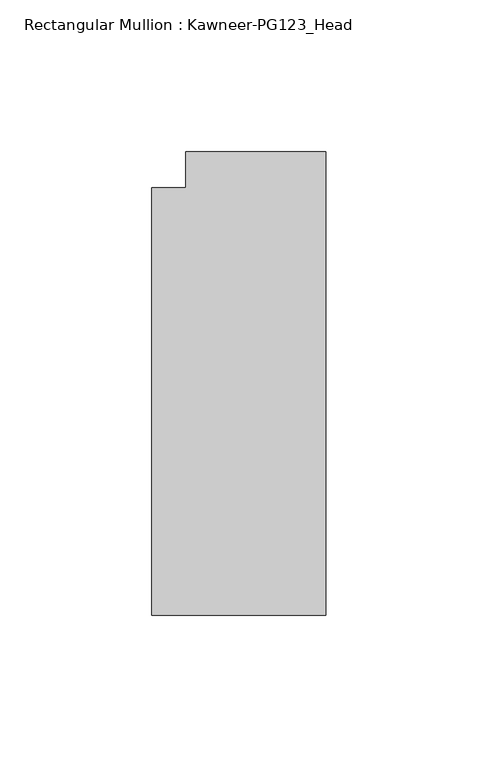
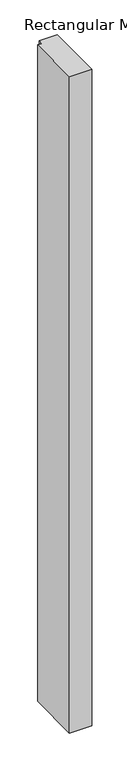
"""IFC4 building model written with IfcOpenShell, lengths in millimetres: member geometry, Rectangular Mullion : Kawneer-PG123_Head."""

from ifc_helpers import new_model, si_unit, frame, origin, place, context, project, spatial, polyline, outline, extrude, source, transform, mapped, element, save


def rectangular_mullion_kawneer_pg123_head_214c1f87(model_context):
    return source(origin(), model_context, "Body", "SweptSolid", [
        extrude(outline(polyline([(0.0, 76.2), (0.0, -76.2), (-57.15, -76.2), (-57.15, 64.4779044), (-46.0319821, 64.4779044), (-46.0319821, 76.2), (0.0, 76.2)])), frame((0.0, 0.0, -1770.45), z_axis=(0.0, 0.0, 1.0), x_axis=(1.0, 0.0, 0.0)), (0.0, 0.0, 1.0), 1770.45),
    ])


if __name__ == "__main__":
    model = new_model("IFC4")
    model_context = context("Model", 3, world=origin())
    ifc_project = project(units=[si_unit("LENGTHUNIT", "METRE", prefix="MILLI")], contexts=[model_context])
    site = spatial("IfcSite", under=ifc_project)
    building = spatial("IfcBuilding", under=site)
    placement = place(None, origin())
    rectangular_mullion_kawneer_pg123_head_shape = rectangular_mullion_kawneer_pg123_head_214c1f87(model_context)
    element("IfcMember", 1, ObjectType="Rectangular Mullion : Kawneer-PG123_Head", at=placement, inside=building, context=model_context, shape_type="MappedRepresentation", body=[
        mapped(rectangular_mullion_kawneer_pg123_head_shape, transform((0.0, 0.0, 0.0), x_axis=(1.0, 0.0, 0.0), y_axis=(0.0, 1.0, 0.0), z_axis=(0.0, 0.0, 1.0))),
    ])
    save(model, "model.ifc")
